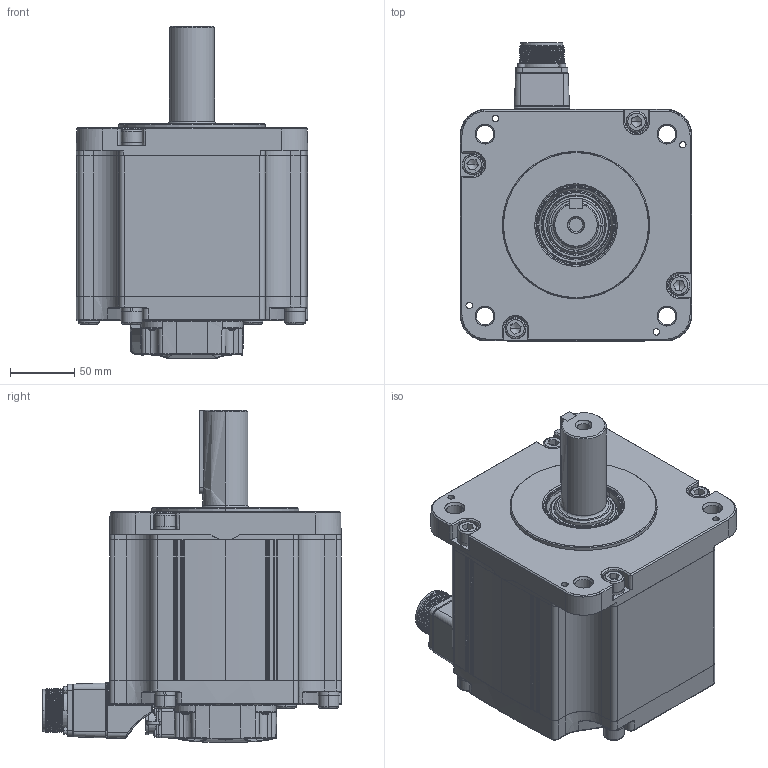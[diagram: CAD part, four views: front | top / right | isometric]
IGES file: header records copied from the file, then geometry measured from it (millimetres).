
Start section: SolidWorks IGES file using analytic representation for surfaces
Global section: file name: Z:\Products\Servo\08.2024\UNITRONICS\B6 MOTORS\UMM-0044EA-B6.IGS; native system: SolidWorks 2022; preprocessor: SolidWorks 2022; author: OfirZ; date: 240822.141645; units: millimetre
Bounding box: 180 x 231.91 x 258 mm (x, y, z)
Surface area: 252950.3 mm2 (no closed solid volume)
Topology: 0 solids, 0 shells, 1092 faces, 13704 edges, 13648 vertices
Faces by surface type: bspline 582, revolution 510
